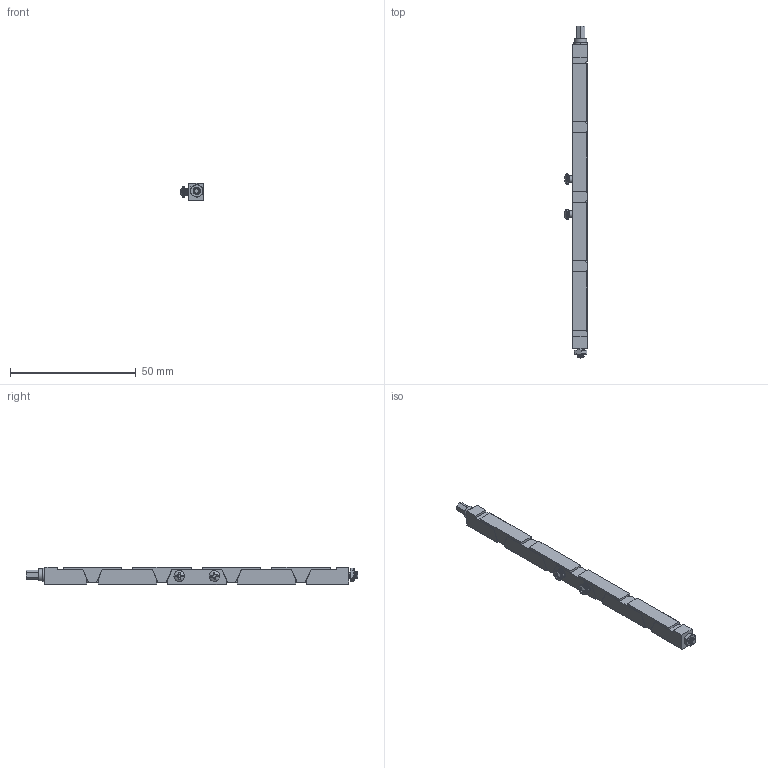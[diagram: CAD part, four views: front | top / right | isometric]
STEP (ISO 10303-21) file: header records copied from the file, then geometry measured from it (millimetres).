
FILE_DESCRIPTION (( 'STEP AP203' ), '1' );
FILE_NAME ('250-09 2-56 Side B.STEP', '2022-08-19T15:42:06', ( '' ), ( '' ), 'SwSTEP 2.0', 'SolidWorks 2021', '' );
FILE_SCHEMA (( 'CONFIG_CONTROL_DESIGN' ));
Length unit declared in the file: inch
Products named in the file (10): IL-250#-M2W; IL-250#-RW; MS51957-1; IL-250#-LW; 250-09 2-56 Side B; IL-250TB_9; IL-250#-MAW; NAS620C4; NAS671C4; U-256-1
Assembly tree (16 placements, depth 2):
  250-09 2-56 Side B
    IL-250TB_9
    NAS620C4
    IL-250#-MAW  x6
    IL-250#-M2W
    NAS671C4
    U-256-1  x2
    IL-250#-LW
    IL-250#-RW
    MS51957-1  x2
Bounding box: 9.02 x 132.08 x 7.02 mm (x, y, z)
Volume: 4142 mm3; surface area: 7550.7 mm2
Topology: 16 solids, 16 shells, 535 faces, 1429 edges, 934 vertices
Faces by surface type: cylinder 227, plane 214, cone 54, bspline 28, torus 8, sphere 4
Entity records: 17374 total; most frequent: CARTESIAN_POINT 8642, ORIENTED_EDGE 1792, DIRECTION 1351, EDGE_CURVE 896, VERTEX_POINT 585, AXIS2_PLACEMENT_3D 480, VECTOR 391, LINE 391
